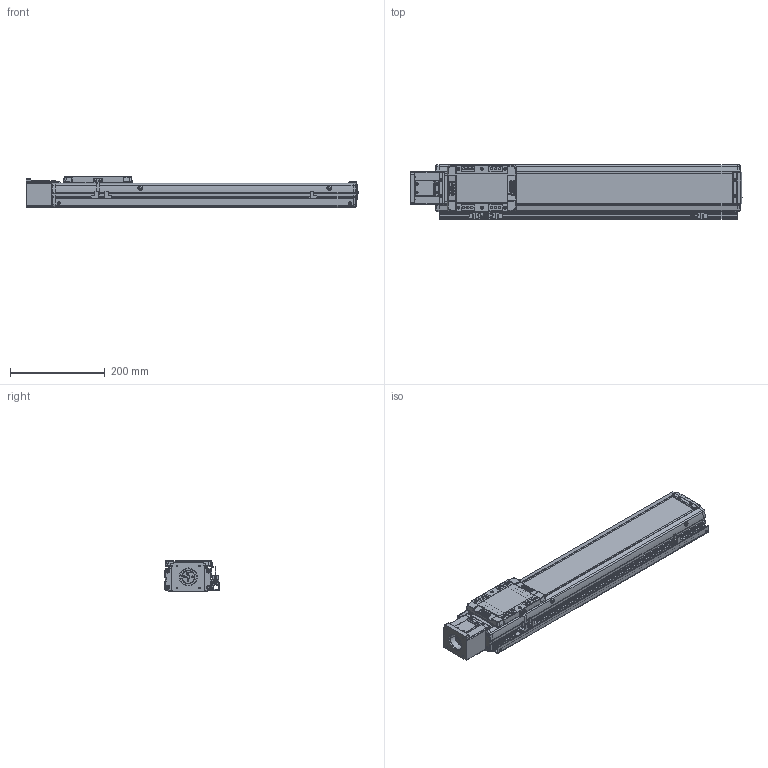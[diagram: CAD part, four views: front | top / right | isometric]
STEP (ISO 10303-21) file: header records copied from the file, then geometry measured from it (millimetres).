
FILE_DESCRIPTION(('STEP AP214'),'1');
FILE_NAME('Z:/Web/3D/SAN100/SAN100 양산용 (STEP)/SAN100ㅁㅁ-450S+3SR.stp','2013-04-26T00:12:29',(' '),(' '),'Spatial InterOp 3D',' ',' ');
FILE_SCHEMA(('automotive_design'));
Length unit declared in the file: millimetre
Products named in the file (58): SUS COVER; SFX-SAN100; RRCV-SAN100; 스크루 : Round - M4.0 x 10.0; M3.0 x 6.0; 스크루 : Round - M3.0 x 6.0; FRBL-SAN100; SLBL-SAN100; SLCV-SAN100; 스크루 : Countersunk - M3.0 x 6.0; BASE; 스크루 : Round - M5.0 x 6.0; MTHZ-SAN100-S56A; SDA26C-8-6.35; SSFX-SAN65; CPLCV-SAN65; FRCV-SAN100; EE-SX674; SBK-SX674-352; SRL-16x17-380L; SGD-SAN100
Bounding box: 702.5 x 116 x 66 mm (x, y, z)
Volume: 2052377.8 mm3; surface area: 579570.2 mm2
Topology: 58 solids, 59 shells, 2905 faces, 7634 edges, 4959 vertices
Faces by surface type: plane 1494, cylinder 1033, cone 241, sphere 72, torus 45, bspline 20
Entity records: 116064 total; most frequent: CARTESIAN_POINT 17950, DIRECTION 16118, ORIENTED_EDGE 15096, EDGE_CURVE 7548, AXIS2_PLACEMENT_3D 5810, VERTEX_POINT 4959, LINE 4498, VECTOR 4498
